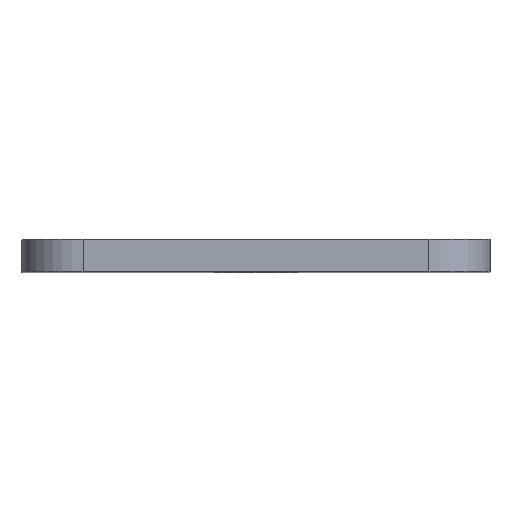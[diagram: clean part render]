
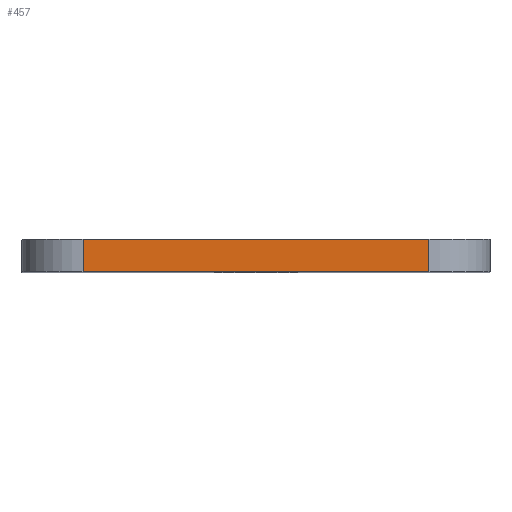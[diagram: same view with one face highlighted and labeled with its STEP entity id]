
A CAD part, top view. The second image highlights one B-rep face of the part: STEP entity #457.
In plain terms, the highlighted planar face has unit normal (0, 0, 1).
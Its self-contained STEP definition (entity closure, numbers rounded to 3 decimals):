
#31 = CARTESIAN_POINT ( 'NONE',  ( -17., 3.2, 51. ) ) ;
#51 = VERTEX_POINT ( 'NONE', #867 ) ;
#54 = LINE ( 'NONE', #186, #872 ) ;
#130 = VERTEX_POINT ( 'NONE', #871 ) ;
#149 = DIRECTION ( 'NONE',  ( 0., -1., 0. ) ) ;
#186 = CARTESIAN_POINT ( 'NONE',  ( -17., 3.2, 51. ) ) ;
#193 = DIRECTION ( 'NONE',  ( 1., 0., 0. ) ) ;
#196 = DIRECTION ( 'NONE',  ( 1., 0., 0. ) ) ;
#246 = CARTESIAN_POINT ( 'NONE',  ( 17., 3.2, 51. ) ) ;
#341 = CARTESIAN_POINT ( 'NONE',  ( -17., 3.2, 51. ) ) ;
#351 = LINE ( 'NONE', #450, #628 ) ;
#413 = PLANE ( 'NONE',  #695 ) ;
#415 = DIRECTION ( 'NONE',  ( -1., 0., 0. ) ) ;
#417 = CARTESIAN_POINT ( 'NONE',  ( -17., 3.2, 51. ) ) ;
#419 = EDGE_CURVE ( 'NONE', #51, #130, #853, .T. ) ;
#421 = FACE_OUTER_BOUND ( 'NONE', #757, .T. ) ;
#423 = ORIENTED_EDGE ( 'NONE', *, *, #982, .F. ) ;
#450 = CARTESIAN_POINT ( 'NONE',  ( 17., 3.2, 51. ) ) ;
#457 = ADVANCED_FACE ( 'NONE', ( #421 ), #413, .F. ) ;
#486 = ORIENTED_EDGE ( 'NONE', *, *, #419, .T. ) ;
#501 = VERTEX_POINT ( 'NONE', #246 ) ;
#530 = VECTOR ( 'NONE', #193, 1000. ) ;
#561 = CARTESIAN_POINT ( 'NONE',  ( -17., 0., 51. ) ) ;
#621 = LINE ( 'NONE', #31, #742 ) ;
#628 = VECTOR ( 'NONE', #149, 1000. ) ;
#669 = VERTEX_POINT ( 'NONE', #417 ) ;
#695 = AXIS2_PLACEMENT_3D ( 'NONE', #341, #875, #415 ) ;
#738 = EDGE_CURVE ( 'NONE', #501, #130, #351, .T. ) ;
#742 = VECTOR ( 'NONE', #801, 1000. ) ;
#757 = EDGE_LOOP ( 'NONE', ( #486, #927, #423, #762 ) ) ;
#762 = ORIENTED_EDGE ( 'NONE', *, *, #899, .T. ) ;
#801 = DIRECTION ( 'NONE',  ( 0., -1., 0. ) ) ;
#853 = LINE ( 'NONE', #561, #530 ) ;
#867 = CARTESIAN_POINT ( 'NONE',  ( -17., 0., 51. ) ) ;
#871 = CARTESIAN_POINT ( 'NONE',  ( 17., 0., 51. ) ) ;
#872 = VECTOR ( 'NONE', #196, 1000. ) ;
#875 = DIRECTION ( 'NONE',  ( 0., 0., -1. ) ) ;
#899 = EDGE_CURVE ( 'NONE', #669, #51, #621, .T. ) ;
#927 = ORIENTED_EDGE ( 'NONE', *, *, #738, .F. ) ;
#982 = EDGE_CURVE ( 'NONE', #669, #501, #54, .T. ) ;
